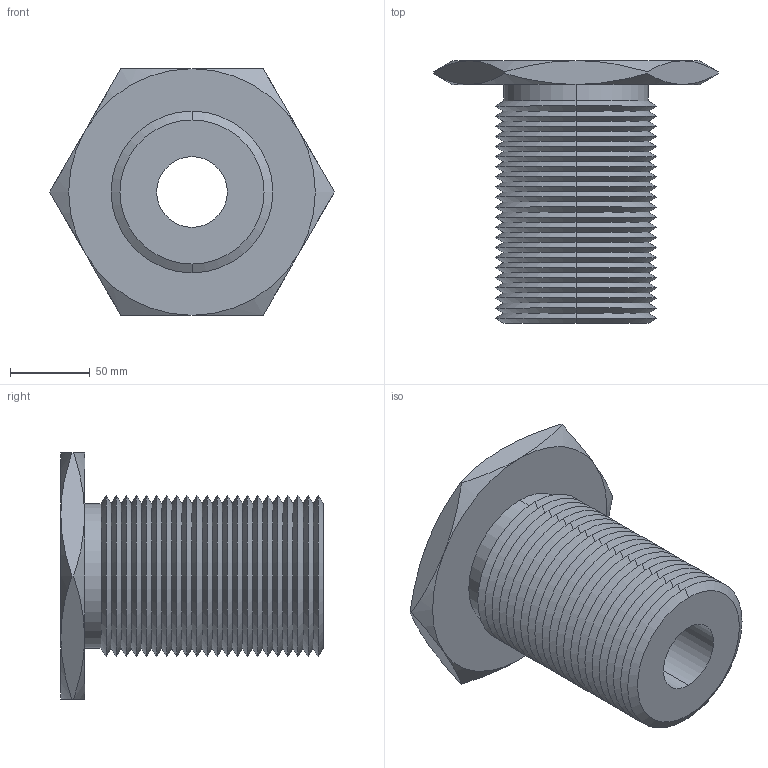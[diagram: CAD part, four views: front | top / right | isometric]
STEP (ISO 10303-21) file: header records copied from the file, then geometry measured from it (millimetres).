
FILE_DESCRIPTION (( 'STEP AP203' ), '1' );
FILE_NAME ('63302.W5400_1,75 UNC-5.step', '2013-12-08T12:03:16', ( 'User' ), ( '' ), 'SwSTEP 2.0', 'SolidWorks 2009', '' );
FILE_SCHEMA (( 'CONFIG_CONTROL_DESIGN' ));
Length unit declared in the file: millimetre
Products named in the file (1): 63302.W5400_1,75 UNC-5
Bounding box: 178.98 x 165 x 155 mm (x, y, z)
Volume: 1126839.9 mm3; surface area: 154557.1 mm2
Topology: 1 solids, 1 shells, 115 faces, 234 edges, 122 vertices
Faces by surface type: cone 102, plane 9, cylinder 4
Entity records: 3179 total; most frequent: CARTESIAN_POINT 696, DIRECTION 552, ORIENTED_EDGE 468, EDGE_CURVE 234, AXIS2_PLACEMENT_3D 226, VERTEX_POINT 122, EDGE_LOOP 118, FACE_OUTER_BOUND 115
